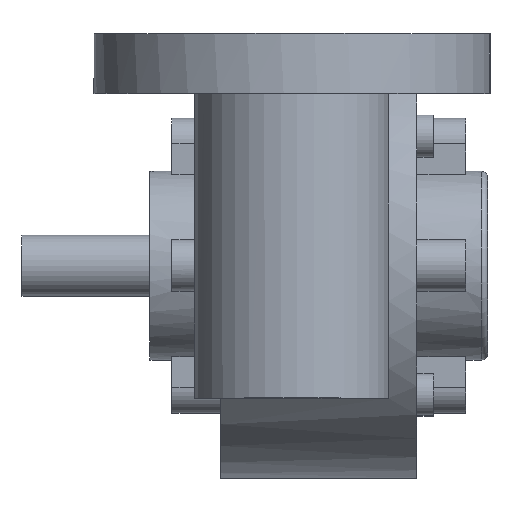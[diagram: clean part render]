
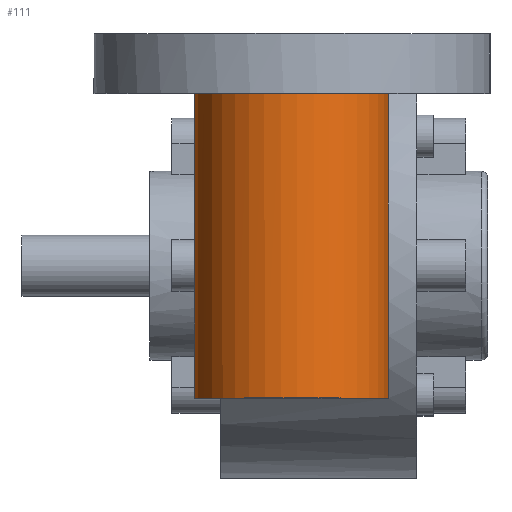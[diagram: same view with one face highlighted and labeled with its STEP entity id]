
A CAD part, top view. The second image highlights one B-rep face of the part: STEP entity #111.
In plain terms, the highlighted cylindrical face has radius 16 mm (diameter 32 mm), a partial arc.
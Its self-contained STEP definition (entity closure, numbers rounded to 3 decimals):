
#111 = ADVANCED_FACE( '', ( #296 ), #297, .T. );
#296 = FACE_OUTER_BOUND( '', #587, .T. );
#297 = CYLINDRICAL_SURFACE( '', #588, 16. );
#587 = EDGE_LOOP( '', ( #882, #883, #884, #885, #886, #887, #888, #889, #890, #891, #892, #893 ) );
#588 = AXIS2_PLACEMENT_3D( '', #894, #895, #896 );
#882 = ORIENTED_EDGE( '', *, *, #1588, .F. );
#883 = ORIENTED_EDGE( '', *, *, #1589, .F. );
#884 = ORIENTED_EDGE( '', *, *, #1590, .F. );
#885 = ORIENTED_EDGE( '', *, *, #1591, .F. );
#886 = ORIENTED_EDGE( '', *, *, #1592, .F. );
#887 = ORIENTED_EDGE( '', *, *, #1593, .T. );
#888 = ORIENTED_EDGE( '', *, *, #1594, .T. );
#889 = ORIENTED_EDGE( '', *, *, #1595, .T. );
#890 = ORIENTED_EDGE( '', *, *, #1596, .T. );
#891 = ORIENTED_EDGE( '', *, *, #1597, .F. );
#892 = ORIENTED_EDGE( '', *, *, #1598, .F. );
#893 = ORIENTED_EDGE( '', *, *, #1599, .T. );
#894 = CARTESIAN_POINT( '', ( 11.413, -59.8, 13.74 ) );
#895 = DIRECTION( '', ( 0., -1., 0. ) );
#896 = DIRECTION( '', ( 0., 0., 1. ) );
#1588 = EDGE_CURVE( '', #1869, #1870, #1871, .T. );
#1589 = EDGE_CURVE( '', #1872, #1869, #1873, .F. );
#1590 = EDGE_CURVE( '', #1874, #1872, #1875, .T. );
#1591 = EDGE_CURVE( '', #1876, #1874, #1877, .F. );
#1592 = EDGE_CURVE( '', #1878, #1876, #1879, .T. );
#1593 = EDGE_CURVE( '', #1878, #1880, #1881, .F. );
#1594 = EDGE_CURVE( '', #1880, #1882, #1883, .T. );
#1595 = EDGE_CURVE( '', #1882, #1884, #1885, .T. );
#1596 = EDGE_CURVE( '', #1884, #1886, #1887, .T. );
#1597 = EDGE_CURVE( '', #1888, #1886, #1889, .F. );
#1598 = EDGE_CURVE( '', #1890, #1888, #1891, .T. );
#1599 = EDGE_CURVE( '', #1890, #1870, #1892, .F. );
#1869 = VERTEX_POINT( '', #2284 );
#1870 = VERTEX_POINT( '', #2285 );
#1871 = B_SPLINE_CURVE_WITH_KNOTS( '', 3, ( #2286, #2287, #2288, #2289, #2290 ), .UNSPECIFIED., .F., .F., ( 4, 1, 4 ), ( 0.001, 0.002, 0.002 ), .UNSPECIFIED. );
#1872 = VERTEX_POINT( '', #2291 );
#1873 = LINE( '', #2292, #2293 );
#1874 = VERTEX_POINT( '', #2294 );
#1875 = B_SPLINE_CURVE_WITH_KNOTS( '', 3, ( #2295, #2296, #2297, #2298, #2299, #2300, #2301, #2302, #2303, #2304, #2305, #2306, #2307, #2308, #2309, #2310, #2311, #2312, #2313, #2314, #2315, #2316, #2317, #2318, #2319, #2320, #2321, #2322 ), .UNSPECIFIED., .F., .F., ( 4, 2, 2, 2, 2, 2, 2, 2, 2, 2, 2, 2, 2, 4 ), ( 0., 0.001, 0.002, 0.003, 0.003, 0.004, 0.005, 0.005, 0.006, 0.007, 0.007, 0.008, 0.009, 0.011 ), .UNSPECIFIED. );
#1876 = VERTEX_POINT( '', #2323 );
#1877 = LINE( '', #2324, #2325 );
#1878 = VERTEX_POINT( '', #2326 );
#1879 = B_SPLINE_CURVE_WITH_KNOTS( '', 3, ( #2327, #2328, #2329, #2330, #2331 ), .UNSPECIFIED., .F., .F., ( 4, 1, 4 ), ( 0.016, 0.016, 0.016 ), .UNSPECIFIED. );
#1880 = VERTEX_POINT( '', #2332 );
#1881 = LINE( '', #2333, #2334 );
#1882 = VERTEX_POINT( '', #2335 );
#1883 = CIRCLE( '', #2336, 16. );
#1884 = VERTEX_POINT( '', #2337 );
#1885 = CIRCLE( '', #2338, 16. );
#1886 = VERTEX_POINT( '', #2339 );
#1887 = LINE( '', #2340, #2341 );
#1888 = VERTEX_POINT( '', #2342 );
#1889 = LINE( '', #2343, #2344 );
#1890 = VERTEX_POINT( '', #2345 );
#1891 = CIRCLE( '', #2346, 16. );
#1892 = LINE( '', #2347, #2348 );
#2284 = CARTESIAN_POINT( '', ( -0.297, -36.688, 2.837 ) );
#2285 = CARTESIAN_POINT( '', ( -0.207, -36.579, 2.741 ) );
#2286 = CARTESIAN_POINT( '', ( -0.297, -36.688, 2.837 ) );
#2287 = CARTESIAN_POINT( '', ( -0.283, -36.669, 2.821 ) );
#2288 = CARTESIAN_POINT( '', ( -0.253, -36.632, 2.79 ) );
#2289 = CARTESIAN_POINT( '', ( -0.223, -36.596, 2.757 ) );
#2290 = CARTESIAN_POINT( '', ( -0.207, -36.579, 2.741 ) );
#2291 = CARTESIAN_POINT( '', ( -0.297, -34.115, 2.837 ) );
#2292 = CARTESIAN_POINT( '', ( -0.297, -59.8, 2.837 ) );
#2293 = VECTOR( '', #2820, 1000. );
#2294 = CARTESIAN_POINT( '', ( -0.297, -41.885, 2.837 ) );
#2295 = CARTESIAN_POINT( '', ( -0.297, -41.885, 2.837 ) );
#2296 = CARTESIAN_POINT( '', ( -0.595, -41.753, 3.157 ) );
#2297 = CARTESIAN_POINT( '', ( -0.865, -41.577, 3.474 ) );
#2298 = CARTESIAN_POINT( '', ( -1.23, -41.23, 3.932 ) );
#2299 = CARTESIAN_POINT( '', ( -1.345, -41.099, 4.082 ) );
#2300 = CARTESIAN_POINT( '', ( -1.554, -40.813, 4.365 ) );
#2301 = CARTESIAN_POINT( '', ( -1.65, -40.657, 4.499 ) );
#2302 = CARTESIAN_POINT( '', ( -1.822, -40.319, 4.748 ) );
#2303 = CARTESIAN_POINT( '', ( -1.899, -40.135, 4.863 ) );
#2304 = CARTESIAN_POINT( '', ( -2.031, -39.75, 5.064 ) );
#2305 = CARTESIAN_POINT( '', ( -2.086, -39.549, 5.15 ) );
#2306 = CARTESIAN_POINT( '', ( -2.175, -39.129, 5.291 ) );
#2307 = CARTESIAN_POINT( '', ( -2.209, -38.907, 5.347 ) );
#2308 = CARTESIAN_POINT( '', ( -2.254, -38.46, 5.421 ) );
#2309 = CARTESIAN_POINT( '', ( -2.265, -38.235, 5.439 ) );
#2310 = CARTESIAN_POINT( '', ( -2.266, -37.782, 5.44 ) );
#2311 = CARTESIAN_POINT( '', ( -2.255, -37.551, 5.422 ) );
#2312 = CARTESIAN_POINT( '', ( -2.211, -37.105, 5.35 ) );
#2313 = CARTESIAN_POINT( '', ( -2.178, -36.888, 5.296 ) );
#2314 = CARTESIAN_POINT( '', ( -2.089, -36.463, 5.155 ) );
#2315 = CARTESIAN_POINT( '', ( -2.033, -36.258, 5.067 ) );
#2316 = CARTESIAN_POINT( '', ( -1.902, -35.872, 4.867 ) );
#2317 = CARTESIAN_POINT( '', ( -1.826, -35.691, 4.754 ) );
#2318 = CARTESIAN_POINT( '', ( -1.567, -35.178, 4.379 ) );
#2319 = CARTESIAN_POINT( '', ( -1.357, -34.893, 4.092 ) );
#2320 = CARTESIAN_POINT( '', ( -0.867, -34.424, 3.476 ) );
#2321 = CARTESIAN_POINT( '', ( -0.596, -34.247, 3.157 ) );
#2322 = CARTESIAN_POINT( '', ( -0.297, -34.115, 2.837 ) );
#2323 = CARTESIAN_POINT( '', ( -0.297, -39.312, 2.837 ) );
#2324 = CARTESIAN_POINT( '', ( -0.297, -59.8, 2.837 ) );
#2325 = VECTOR( '', #2821, 1000. );
#2326 = CARTESIAN_POINT( '', ( -0.207, -39.421, 2.741 ) );
#2327 = CARTESIAN_POINT( '', ( -0.207, -39.421, 2.741 ) );
#2328 = CARTESIAN_POINT( '', ( -0.222, -39.404, 2.757 ) );
#2329 = CARTESIAN_POINT( '', ( -0.253, -39.368, 2.79 ) );
#2330 = CARTESIAN_POINT( '', ( -0.282, -39.331, 2.821 ) );
#2331 = CARTESIAN_POINT( '', ( -0.297, -39.312, 2.837 ) );
#2332 = CARTESIAN_POINT( '', ( -0.207, -59.8, 2.741 ) );
#2333 = CARTESIAN_POINT( '', ( -0.207, -59.8, 2.741 ) );
#2334 = VECTOR( '', #2822, 1000. );
#2335 = CARTESIAN_POINT( '', ( -0.297, -59.8, 2.837 ) );
#2336 = AXIS2_PLACEMENT_3D( '', #2823, #2824, #2825 );
#2337 = CARTESIAN_POINT( '', ( 27.217, -59.8, 16.24 ) );
#2338 = AXIS2_PLACEMENT_3D( '', #2826, #2827, #2828 );
#2339 = CARTESIAN_POINT( '', ( 27.217, -38., 16.24 ) );
#2340 = CARTESIAN_POINT( '', ( 27.217, -59.8, 16.24 ) );
#2341 = VECTOR( '', #2829, 1000. );
#2342 = CARTESIAN_POINT( '', ( 27.217, -9.8, 16.24 ) );
#2343 = CARTESIAN_POINT( '', ( 27.217, -59.8, 16.24 ) );
#2344 = VECTOR( '', #2830, 1000. );
#2345 = CARTESIAN_POINT( '', ( -0.207, -9.8, 2.741 ) );
#2346 = AXIS2_PLACEMENT_3D( '', #2831, #2832, #2833 );
#2347 = CARTESIAN_POINT( '', ( -0.207, -59.8, 2.741 ) );
#2348 = VECTOR( '', #2834, 1000. );
#2820 = DIRECTION( '', ( 0., 1., 0. ) );
#2821 = DIRECTION( '', ( 0., 1., 0. ) );
#2822 = DIRECTION( '', ( 0., 1., 0. ) );
#2823 = CARTESIAN_POINT( '', ( 11.413, -59.8, 13.74 ) );
#2824 = DIRECTION( '', ( 0., 1., 0. ) );
#2825 = DIRECTION( '', ( 1., 0., 0. ) );
#2826 = CARTESIAN_POINT( '', ( 11.413, -59.8, 13.74 ) );
#2827 = DIRECTION( '', ( 0., 1., 0. ) );
#2828 = DIRECTION( '', ( 1., 0., 0. ) );
#2829 = DIRECTION( '', ( 0., 1., 0. ) );
#2830 = DIRECTION( '', ( 0., 1., 0. ) );
#2831 = CARTESIAN_POINT( '', ( 11.413, -9.8, 13.74 ) );
#2832 = DIRECTION( '', ( 0., 1., 0. ) );
#2833 = DIRECTION( '', ( 1., 0., 0. ) );
#2834 = DIRECTION( '', ( 0., 1., 0. ) );
